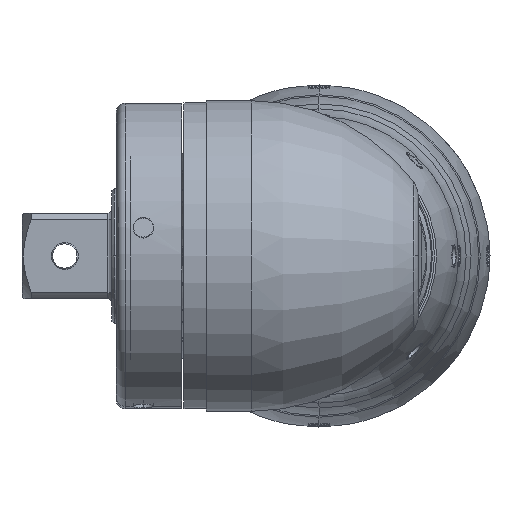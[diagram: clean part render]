
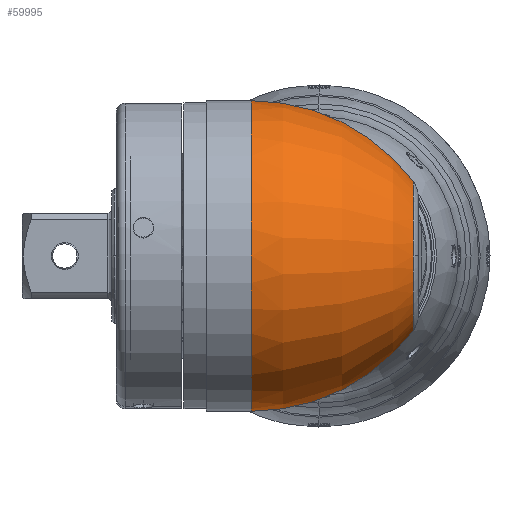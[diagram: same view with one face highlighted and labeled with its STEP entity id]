
A CAD part, left-side view. The second image highlights one B-rep face of the part: STEP entity #59995.
In plain terms, the highlighted toroidal (fillet/blend) face has major radius 10.5 mm and minor radius 45 mm.
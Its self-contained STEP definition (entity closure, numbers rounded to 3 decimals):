
#2435 = AXIS2_PLACEMENT_3D ( 'NONE', #12869, #20168, #48615 ) ;
#3402 = EDGE_LOOP ( 'NONE', ( #55018, #38196, #28828, #16580, #15705 ) ) ;
#7227 = AXIS2_PLACEMENT_3D ( 'NONE', #28011, #64850, #18940 ) ;
#10012 = DIRECTION ( 'NONE',  ( 0., 1., 0. ) ) ;
#10630 = EDGE_CURVE ( 'NONE', #35240, #11446, #77295, .T. ) ;
#10775 = CARTESIAN_POINT ( 'NONE',  ( 0., -21., -16.5 ) ) ;
#11446 = VERTEX_POINT ( 'NONE', #88504 ) ;
#12835 = VERTEX_POINT ( 'NONE', #49325 ) ;
#12869 = CARTESIAN_POINT ( 'NONE',  ( 0., -21., 0. ) ) ;
#13926 = DIRECTION ( 'NONE',  ( -1., 0., 0. ) ) ;
#13930 = AXIS2_PLACEMENT_3D ( 'NONE', #74843, #78425, #39809 ) ;
#15220 = CARTESIAN_POINT ( 'NONE',  ( 0., 15., 10.5 ) ) ;
#15705 = ORIENTED_EDGE ( 'NONE', *, *, #35369, .F. ) ;
#16580 = ORIENTED_EDGE ( 'NONE', *, *, #40364, .T. ) ;
#18940 = DIRECTION ( 'NONE',  ( 0., 0., 1. ) ) ;
#20168 = DIRECTION ( 'NONE',  ( 0., 1., 0. ) ) ;
#20805 = TOROIDAL_SURFACE ( 'NONE', #7227, -10.5, 45. ) ;
#24612 = VERTEX_POINT ( 'NONE', #63875 ) ;
#27757 = CIRCLE ( 'NONE', #52631, 16.5 ) ;
#28011 = CARTESIAN_POINT ( 'NONE',  ( 0., 15., 0. ) ) ;
#28828 = ORIENTED_EDGE ( 'NONE', *, *, #39686, .T. ) ;
#35240 = VERTEX_POINT ( 'NONE', #10775 ) ;
#35369 = EDGE_CURVE ( 'NONE', #11446, #79592, #114340, .T. ) ;
#38196 = ORIENTED_EDGE ( 'NONE', *, *, #116690, .T. ) ;
#39147 = AXIS2_PLACEMENT_3D ( 'NONE', #69555, #13926, #50853 ) ;
#39686 = EDGE_CURVE ( 'NONE', #24612, #12835, #27757, .T. ) ;
#39809 = DIRECTION ( 'NONE',  ( 0., 0., 1. ) ) ;
#40364 = EDGE_CURVE ( 'NONE', #12835, #79592, #79688, .T. ) ;
#45564 = FACE_OUTER_BOUND ( 'NONE', #3402, .T. ) ;
#48615 = DIRECTION ( 'NONE',  ( -1., 0., 0. ) ) ;
#49325 = CARTESIAN_POINT ( 'NONE',  ( 0., -21., 16.5 ) ) ;
#49749 = CARTESIAN_POINT ( 'NONE',  ( 0., 15., 34.5 ) ) ;
#50853 = DIRECTION ( 'NONE',  ( 0., 0., 1. ) ) ;
#52631 = AXIS2_PLACEMENT_3D ( 'NONE', #92808, #10012, #57805 ) ;
#54667 = CIRCLE ( 'NONE', #2435, 16.5 ) ;
#55018 = ORIENTED_EDGE ( 'NONE', *, *, #10630, .F. ) ;
#57805 = DIRECTION ( 'NONE',  ( -1., 0., 0. ) ) ;
#59995 = ADVANCED_FACE ( 'NONE', ( #45564 ), #20805, .T. ) ;
#62941 = DIRECTION ( 'NONE',  ( 0., 0., -1. ) ) ;
#63875 = CARTESIAN_POINT ( 'NONE',  ( -16.5, -21., 0. ) ) ;
#64850 = DIRECTION ( 'NONE',  ( 0., 1., 0. ) ) ;
#69555 = CARTESIAN_POINT ( 'NONE',  ( 0., 15., -10.5 ) ) ;
#74843 = CARTESIAN_POINT ( 'NONE',  ( 0., 15., 0. ) ) ;
#77295 = CIRCLE ( 'NONE', #108037, 45. ) ;
#78425 = DIRECTION ( 'NONE',  ( 0., 1., 0. ) ) ;
#79592 = VERTEX_POINT ( 'NONE', #49749 ) ;
#79688 = CIRCLE ( 'NONE', #39147, 45. ) ;
#79889 = DIRECTION ( 'NONE',  ( 1., 0., 0. ) ) ;
#88504 = CARTESIAN_POINT ( 'NONE',  ( 0., 15., -34.5 ) ) ;
#92808 = CARTESIAN_POINT ( 'NONE',  ( 0., -21., 0. ) ) ;
#108037 = AXIS2_PLACEMENT_3D ( 'NONE', #15220, #79889, #62941 ) ;
#114340 = CIRCLE ( 'NONE', #13930, 34.5 ) ;
#116690 = EDGE_CURVE ( 'NONE', #35240, #24612, #54667, .T. ) ;
